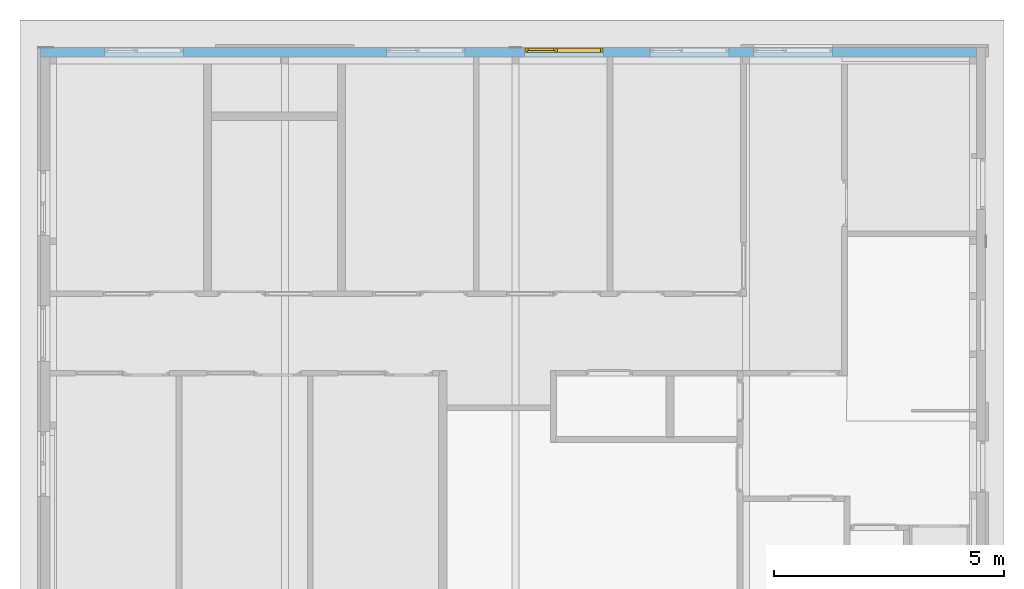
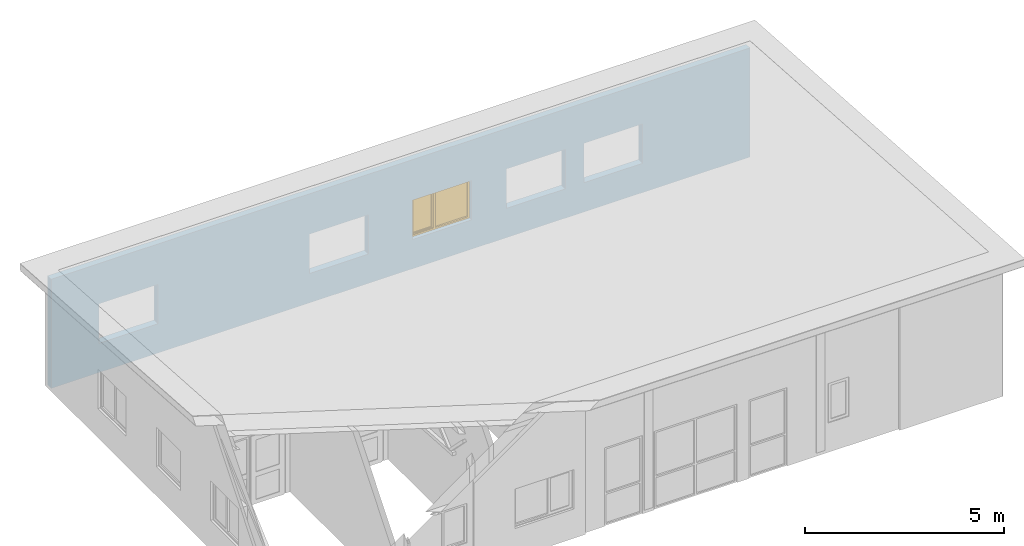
# One storey, part 28 of 37: 1 window, 5 openings, plus 1 element that does not belong to this part.
"""IFC2X3 building model written with IfcOpenShell, lengths in millimetres."""

import ifcopenshell
import ifcopenshell.guid

model = None  # the IFC model being written
_history = None  # IfcOwnerHistory: only IFC2X3 demands one
_inside = {}  # id of a spatial element -> (the spatial element, [elements in it])
_under = {}  # id of a project, library or spatial element -> (it, [spatial elements below it])
_declared = {}  # id of a project -> (the project, [libraries it declares])
_typed = {}  # id of a type object -> (the type object, [elements of that type])
_made_of = {}  # id of a material, layer set ... -> (it, [elements and type objects made of it])


def new_model(schema):
    """Start an empty IFC model of exactly this schema.

    Asked for "IFC4X3", IfcOpenShell would pick the latest addendum, in which some entities
    have other attributes; the version numbers below select the first issue.
    IFC2X3 requires an IfcOwnerHistory on every rooted entity: one is made here for all.
    """
    global model, _history
    if schema == "IFC4X3":
        model = ifcopenshell.file(schema_version=(4, 3, 0, 0))
    else:
        model = ifcopenshell.file(schema=schema)
    _inside.clear()
    _under.clear()
    _declared.clear()
    _typed.clear()
    _made_of.clear()
    _history = None
    if model.schema == "IFC2X3":
        org = make("IfcOrganization", Name="unknown")
        user = make(
            "IfcPersonAndOrganization",
            ThePerson=make("IfcPerson", FamilyName="unknown"),
            TheOrganization=org,
        )
        app = make(
            "IfcApplication",
            ApplicationDeveloper=org,
            Version="unknown",
            ApplicationFullName="unknown",
            ApplicationIdentifier="unknown",
        )
        _history = make(
            "IfcOwnerHistory",
            OwningUser=user,
            OwningApplication=app,
            ChangeAction="ADDED",
            CreationDate=0,
        )
    return model


def make(cls, **values):
    """One entity of the class cls with the attributes given. An attribute that is None is left unset."""
    return model.create_entity(
        cls, **{name: value for name, value in values.items() if value is not None}
    )


def entity(cls, *values):
    """Any entity or typed value of the class cls, its attributes in the order of the schema. None: left unset."""
    e = model.create_entity(cls)
    for i, value in enumerate(values):
        if value is not None:
            e[i] = value
    return e


def rooted(cls, **values):
    """An entity with a GlobalId (a new one), such as an element, a storey or a relation."""
    return make(cls, GlobalId=ifcopenshell.guid.new(), OwnerHistory=_history, **values)


def si_unit(unit_type, name, prefix=None):
    """IfcSIUnit, for example si_unit("LENGTHUNIT", "METRE", prefix="MILLI")."""
    return make("IfcSIUnit", UnitType=unit_type, Prefix=prefix, Name=name)


def converted_unit(unit_type, name, factor, base, dimensions=None, offset=None):
    """IfcConversionBasedUnit, such as the inch: factor (a typed value) times the base unit."""
    return make(
        "IfcConversionBasedUnit"
        if offset is None
        else "IfcConversionBasedUnitWithOffset",
        ConversionOffset=offset,
        Dimensions=None
        if dimensions is None
        else entity("IfcDimensionalExponents", *dimensions),
        UnitType=unit_type,
        Name=name,
        ConversionFactor=make(
            "IfcMeasureWithUnit", ValueComponent=factor, UnitComponent=base
        ),
    )


def assignment(units):
    """IfcUnitAssignment: the units of a project."""
    return None if units is None else make("IfcUnitAssignment", Units=units)


def point(xyz):
    """IfcCartesianPoint."""
    return None if xyz is None else make("IfcCartesianPoint", Coordinates=xyz)


def direction(xyz):
    """IfcDirection."""
    return None if xyz is None else make("IfcDirection", DirectionRatios=xyz)


def frame(location, z_axis=None, x_axis=None):
    """IfcAxis2Placement3D, a coordinate frame: its origin and axes. An axis left out is left unset."""
    return make(
        "IfcAxis2Placement3D",
        Location=point(location),
        Axis=direction(z_axis),
        RefDirection=direction(x_axis),
    )


def frame_2d(location, x_axis=None):
    """IfcAxis2Placement2D, a coordinate frame in the plane: its origin and x axis."""
    return make(
        "IfcAxis2Placement2D", Location=point(location), RefDirection=direction(x_axis)
    )


def origin():
    """The frame at (0, 0, 0) with its axes left unset."""
    return frame((0.0, 0.0, 0.0))


def origin_with_axes():
    """The frame at (0, 0, 0) with the z axis (0, 0, 1) and the x axis (1, 0, 0) written out."""
    return frame((0.0, 0.0, 0.0), z_axis=(0.0, 0.0, 1.0), x_axis=(1.0, 0.0, 0.0))


def place(relative_to, where):
    """IfcLocalPlacement: puts the frame where relative to a parent placement (None: the world)."""
    return make(
        "IfcLocalPlacement", PlacementRelTo=relative_to, RelativePlacement=where
    )


def context(
    kind, dimensions, precision=None, world=None, true_north=None, identifier=None
):
    """IfcGeometricRepresentationContext, for example the 3D "Model" context."""
    return make(
        "IfcGeometricRepresentationContext",
        ContextIdentifier=identifier,
        ContextType=kind,
        CoordinateSpaceDimension=dimensions,
        Precision=precision,
        WorldCoordinateSystem=world,
        TrueNorth=true_north,
    )


def subcontext(parent, identifier, kind, view, scale=None):
    """IfcGeometricRepresentationSubContext, for example "Body" below "Model"."""
    return make(
        "IfcGeometricRepresentationSubContext",
        ContextIdentifier=identifier,
        ContextType=kind,
        ParentContext=parent,
        TargetScale=scale,
        TargetView=view,
    )


def project(units=None, contexts=None):
    """IfcProject with its units and contexts."""
    return rooted(
        "IfcProject",
        Name="project",
        RepresentationContexts=contexts,
        UnitsInContext=assignment(units),
    )


def spatial(cls, under=None, at=None, **own):
    """A site, building, storey or space (cls), placed at a placement, below another one or the project."""
    s = rooted(cls, ObjectPlacement=at, **own)
    if under is not None:
        _under.setdefault(under.id(), (under, []))[1].append(s)
    return s


def profile(cls, at=None, kind="AREA", **sizes):
    """A parametric profile (cls). Its sizes go by their IFC names, for example OverallWidth=200.0."""
    return make(cls, ProfileType=kind, Position=at, **sizes)


def rectangle(**sizes):
    """IfcRectangleProfileDef."""
    return profile("IfcRectangleProfileDef", **sizes)


def extrude(swept, where, along, depth):
    """IfcExtrudedAreaSolid: the profile swept, set in the frame where, extruded along a direction by depth."""
    return make(
        "IfcExtrudedAreaSolid",
        SweptArea=swept,
        Position=where,
        ExtrudedDirection=direction(along),
        Depth=depth,
    )


def clip(a, b, op="DIFFERENCE"):
    """IfcBooleanClippingResult: the solid a cut by the half space b."""
    return make(
        "IfcBooleanClippingResult", Operator=op, FirstOperand=a, SecondOperand=b
    )


def halfspace(plane, agree):
    """IfcHalfSpaceSolid: all space on one side of the plane z = 0 of the frame plane."""
    return make(
        "IfcHalfSpaceSolid",
        BaseSurface=make("IfcPlane", Position=plane),
        AgreementFlag=agree,
    )


def faces_of(points, faces, orient=None, outer=None):
    """IfcFace entities. A face is a list of loops; a loop is a list of indices into points, from 0.

    orient and outer hold one flag for each loop. By default every Orientation is true, the
    first loop of a face is its IfcFaceOuterBound and the others are IfcFaceBound.
    """
    made = []
    for i, loops in enumerate(faces):
        bounds = []
        for j, loop in enumerate(loops):
            is_outer = j == 0 if outer is None else outer[i][j]
            bounds.append(
                make(
                    "IfcFaceOuterBound" if is_outer else "IfcFaceBound",
                    Bound=make("IfcPolyLoop", Polygon=[points[k] for k in loop]),
                    Orientation=True if orient is None else orient[i][j],
                )
            )
        made.append(make("IfcFace", Bounds=bounds))
    return made


def faceted_brep(points, faces, orient=None, outer=None, voids=None):
    """IfcFacetedBrep: a solid bounded by flat faces; with voids (closed shells), ...WithVoids."""
    shared = [point(p) for p in points]
    hull = make("IfcClosedShell", CfsFaces=faces_of(shared, faces, orient, outer))
    if voids is None:
        return make("IfcFacetedBrep", Outer=hull)
    return make(
        "IfcFacetedBrepWithVoids",
        Outer=hull,
        Voids=[
            make(cls, CfsFaces=faces_of(shared, fs, o, b)) for cls, fs, o, b in voids
        ],
    )


def shape(context_of_items, identifier, shape_type, items):
    """IfcShapeRepresentation: the items that make up one representation, for example the "Body"."""
    return make(
        "IfcShapeRepresentation",
        ContextOfItems=context_of_items,
        RepresentationIdentifier=identifier,
        RepresentationType=shape_type,
        Items=items,
    )


def material(Name=None, Category=None):
    """IfcMaterial."""
    return make("IfcMaterial", Name=Name, Category=Category)


def layer(
    of_material, thickness, ventilated=None, Name=None, Category=None, Priority=None
):
    """IfcMaterialLayer: one layer of a wall or slab, of a material (None: an air gap)."""
    return make(
        "IfcMaterialLayer",
        Material=of_material,
        LayerThickness=thickness,
        IsVentilated=ventilated,
        Name=Name,
        Category=Category,
        Priority=Priority,
    )


def layer_set(layers, Name=None):
    """IfcMaterialLayerSet."""
    return make("IfcMaterialLayerSet", MaterialLayers=layers, LayerSetName=Name)


def layer_usage(for_layer_set, set_direction, sense, offset, extent=None):
    """IfcMaterialLayerSetUsage: how a layer set lies in its element."""
    return make(
        "IfcMaterialLayerSetUsage",
        ForLayerSet=for_layer_set,
        LayerSetDirection=set_direction,
        DirectionSense=sense,
        OffsetFromReferenceLine=offset,
        ReferenceExtent=extent,
    )


def made_of(thing, what):
    """Note that an element or type object is made of a material, layer set ...; save() writes the relation."""
    if what is not None:
        _made_of.setdefault(what.id(), (what, []))[1].append(thing)
    return thing


def type_object(cls, material=None, **own):
    """A type object (cls), such as IfcWallType, which elements share."""
    return made_of(rooted(cls, **own), material)


def element(
    cls,
    number,
    at=None,
    inside=None,
    cuts=None,
    type_object=None,
    material=None,
    context=None,
    identifier="Body",
    shape_type=None,
    held_by="IfcProductDefinitionShape",
    body=None,
    shapes=None,
    **own,
):
    """One element of the class cls, such as IfcWall. Its Tag is "e" and its number.

    at: its placement. inside: the storey or other place that contains it. cuts: it is an
    opening in that element (IfcRelVoidsElement). A single representation is given by context,
    identifier, shape_type and body (its items); several are given by shapes. held_by: the class
    of the entity that holds the representations. save() writes the other relations.
    """
    e = rooted(cls, Tag="e%d" % number, ObjectPlacement=at, **own)
    if body is not None:
        shapes = [shape(context, identifier, shape_type, body)]
    if shapes is not None:
        e.Representation = make(held_by, Representations=shapes)
    if inside is not None:
        _inside.setdefault(inside.id(), (inside, []))[1].append(e)
    if cuts is not None:
        rooted(
            "IfcRelVoidsElement", RelatingBuildingElement=cuts, RelatedOpeningElement=e
        )
    if type_object is not None:
        _typed.setdefault(type_object.id(), (type_object, []))[1].append(e)
    return made_of(e, material)


def fill(opening, filler):
    """IfcRelFillsElement: the door or window that sits in an opening."""
    return rooted(
        "IfcRelFillsElement",
        RelatingOpeningElement=opening,
        RelatedBuildingElement=filler,
    )


def aggregate(whole, parts):
    """IfcRelAggregates: a whole, such as a stair, and the parts it consists of."""
    return rooted("IfcRelAggregates", RelatingObject=whole, RelatedObjects=parts)


def save(model, path):
    """Write the relations noted so far, then the file.

    IfcRelAggregates (storeys below a building ...), IfcRelContainedInSpatialStructure (elements
    in a storey), IfcRelDefinesByType, IfcRelAssociatesMaterial and IfcRelDeclares: one each for
    every whole, place, type object, material and project.
    """
    for whole, parts in _under.values():
        aggregate(whole, parts)
    for where, things in _inside.values():
        rooted(
            "IfcRelContainedInSpatialStructure",
            RelatedElements=things,
            RelatingStructure=where,
        )
    for kind, things in _typed.values():
        rooted("IfcRelDefinesByType", RelatedObjects=things, RelatingType=kind)
    for what, things in _made_of.values():
        rooted("IfcRelAssociatesMaterial", RelatedObjects=things, RelatingMaterial=what)
    for by, libraries in _declared.values():
        rooted("IfcRelDeclares", RelatingContext=by, RelatedDefinitions=libraries)
    model.write(path)


model = new_model("IFC2X3")

# Units and contexts
model_context = context("Model", 3, precision=1e-05, world=origin())
plan_context = context("Plan", 3, precision=1e-05, world=origin())
body_context = subcontext(model_context, "Body", "Model", "MODEL_VIEW")
ifc_project = project(units=[si_unit("LENGTHUNIT", "METRE", prefix="MILLI"), converted_unit("PLANEANGLEUNIT", "DEGREE", entity("IfcPlaneAngleMeasure", 0.0174532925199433), si_unit("PLANEANGLEUNIT", "RADIAN"), dimensions=[0, 0, 0, 0, 0, 0, 0]), si_unit("AREAUNIT", "SQUARE_METRE"), si_unit("VOLUMEUNIT", "CUBIC_METRE")], contexts=[model_context, plan_context])

# Building, storey
building_placement = place(None, origin())
building = spatial("IfcBuilding", under=ifc_project, at=building_placement, Name="HEKF Administrasjonbygg", CompositionType="ELEMENT")
storey_placement = place(building_placement, frame((0.0, 0.0, 9900.0), z_axis=(0.0, 0.0, 1.0), x_axis=(1.0, 0.0, 0.0)))
storey = spatial("IfcBuildingStorey", under=building, at=storey_placement, Name="Plan 2", CompositionType="ELEMENT", Elevation=9900.0)

# Wall, openings, window
ifc_material_1 = material(Name="Paroc 200")
ifc_layer = layer(ifc_material_1, 200.0)
ifc_layer_set = layer_set([ifc_layer])
ifc_layer_usage = layer_usage(ifc_layer_set, "AXIS2", "POSITIVE", 0.0)
wall_placement = place(storey_placement, frame((9699.999999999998, 0.0, 0.0), z_axis=(0.0, 0.0, 1.0), x_axis=(1.0, 0.0, 0.0)))
wall = element("IfcWallStandardCase", 1, at=wall_placement, inside=storey, material=ifc_layer_usage, context=body_context, shape_type="Clipping", body=[
    clip(extrude(rectangle(XDim=20300.0, YDim=200.0, at=frame_2d((10150.0, 100.0), x_axis=(1.0, 0.0))), origin_with_axes(), (0.0, 0.0, 1.0), 3349.999999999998), halfspace(frame((0.0, 0.0, 3349.999999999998), z_axis=(0.0, -0.06651901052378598, -0.9977851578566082), x_axis=(1.0, 0.0, 0.0)), True)),
])
opening_1_placement = place(wall_placement, frame((15470.0, 0.0, 900.0), z_axis=(0.0, 1.0, 0.0), x_axis=(0.0, 0.0, 1.0)))
element("IfcOpeningElement", 2, at=opening_1_placement, cuts=wall, Name="Window opening", ObjectType="Opening", context=body_context, shape_type="SweptSolid", body=[
    extrude(rectangle(XDim=1210.0, YDim=1710.0, at=frame_2d((605.0, 855.0), x_axis=(1.0, 0.0))), origin_with_axes(), (0.0, 0.0, 1.0), 200.0),
])
opening_2_placement = place(wall_placement, frame((7500.000000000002, 0.0, 900.0), z_axis=(0.0, 1.0, 0.0), x_axis=(0.0, 0.0, 1.0)))
element("IfcOpeningElement", 3, at=opening_2_placement, cuts=wall, Name="Window opening", ObjectType="Opening", context=body_context, shape_type="SweptSolid", body=[
    extrude(rectangle(XDim=1210.0, YDim=1710.0, at=frame_2d((605.0, 855.0), x_axis=(1.0, 0.0))), origin_with_axes(), (0.0, 0.0, 1.0), 200.0),
])
opening_3_placement = place(wall_placement, frame((13220.0, 0.0, 900.0), z_axis=(0.0, 1.0, 0.0), x_axis=(0.0, 0.0, 1.0)))
element("IfcOpeningElement", 4, at=opening_3_placement, cuts=wall, Name="Window opening", ObjectType="Opening", context=body_context, shape_type="SweptSolid", body=[
    extrude(rectangle(XDim=1210.0, YDim=1710.0, at=frame_2d((605.0, 855.0), x_axis=(1.0, 0.0))), origin_with_axes(), (0.0, 0.0, 1.0), 200.0),
])
opening_4_placement = place(wall_placement, frame((10500.0, 0.0, 900.0), z_axis=(0.0, 1.0, 0.0), x_axis=(0.0, 0.0, 1.0)))
opening_4 = element("IfcOpeningElement", 5, at=opening_4_placement, cuts=wall, Name="Window opening", ObjectType="Opening", context=body_context, shape_type="SweptSolid", body=[
    extrude(rectangle(XDim=1210.0, YDim=1710.0, at=frame_2d((605.0, 855.0), x_axis=(1.0, 0.0))), origin_with_axes(), (0.0, 0.0, 1.0), 200.0),
])
opening_5_placement = place(wall_placement, frame((1390.000000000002, 0.0, 900.0), z_axis=(0.0, 1.0, 0.0), x_axis=(0.0, 0.0, 1.0)))
element("IfcOpeningElement", 6, at=opening_5_placement, cuts=wall, Name="Window opening", ObjectType="Opening", context=body_context, shape_type="SweptSolid", body=[
    extrude(rectangle(XDim=1210.0, YDim=1710.0, at=frame_2d((605.0, 855.0), x_axis=(1.0, 0.0))), origin_with_axes(), (0.0, 0.0, 1.0), 200.0),
])
ifc_material_2 = material()
window_style = type_object("IfcWindowStyle", Name="V212", ConstructionType="NOTDEFINED", OperationType="USERDEFINED", ParameterTakesPrecedence=False, Sizeable=False)
window_placement = place(opening_4_placement, frame((0.0, 0.0, 0.0), z_axis=(1.0, 0.0, 0.0), x_axis=(0.0, 1.0, 0.0)))
window = element("IfcWindow", 7, at=window_placement, inside=storey, type_object=window_style, material=ifc_material_2, Name="V212", OverallHeight=1210.0, OverallWidth=1710.0, context=body_context, shape_type="Brep", body=[
    faceted_brep([(1700.0, 93.99999999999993, 1200.0), (1700.0, 94.0, 9.999999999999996), (1650.0, 94.00000000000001, 9.999999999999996), (1650.0, 93.99999999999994, 1200.0), (1700.0, 186.0, 10.0), (1700.0, 185.9999999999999, 1200.0), (1650.0, 185.9999999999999, 1200.0), (1650.0, 186.0, 10.0), (1700.0, 94.0, 9.999999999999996), (1700.0, 93.99999999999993, 1200.0), (1700.0, 185.9999999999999, 1200.0), (1700.0, 186.0, 10.0), (1650.0, 94.00000000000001, 9.999999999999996), (1700.0, 94.0, 9.999999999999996), (1700.0, 186.0, 10.0), (1650.0, 186.0, 10.0), (1650.0, 93.99999999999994, 1200.0), (1650.0, 94.00000000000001, 9.999999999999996), (1650.0, 186.0, 10.0), (1650.0, 185.9999999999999, 1200.0), (1700.0, 93.99999999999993, 1200.0), (1650.0, 93.99999999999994, 1200.0), (1650.0, 185.9999999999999, 1200.0), (1700.0, 185.9999999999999, 1200.0)], [[[0, 1, 2, 3]], [[4, 5, 6, 7]], [[8, 9, 10, 11]], [[12, 13, 14, 15]], [[16, 17, 18, 19]], [[20, 21, 22, 23]]], orient=[[False], [False], [False], [False], [False], [False]]),
    faceted_brep([(60.0, 94.00000000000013, 1200.0), (60.0, 94.0000000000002, 9.999999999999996), (10.0, 94.00000000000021, 9.999999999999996), (10.0, 94.00000000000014, 1200.0), (60.0, 186.0000000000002, 10.0), (60.0, 186.0000000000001, 1200.0), (10.0, 186.0000000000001, 1200.0), (10.0, 186.0000000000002, 10.0), (60.0, 94.0000000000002, 9.999999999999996), (60.0, 94.00000000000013, 1200.0), (60.0, 186.0000000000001, 1200.0), (60.0, 186.0000000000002, 10.0), (10.0, 94.00000000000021, 9.999999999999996), (60.0, 94.0000000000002, 9.999999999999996), (60.0, 186.0000000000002, 10.0), (10.0, 186.0000000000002, 10.0), (10.0, 94.00000000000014, 1200.0), (10.0, 94.00000000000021, 9.999999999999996), (10.0, 186.0000000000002, 10.0), (10.0, 186.0000000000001, 1200.0), (60.0, 94.00000000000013, 1200.0), (10.0, 94.00000000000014, 1200.0), (10.0, 186.0000000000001, 1200.0), (60.0, 186.0000000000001, 1200.0)], [[[0, 1, 2, 3]], [[4, 5, 6, 7]], [[8, 9, 10, 11]], [[12, 13, 14, 15]], [[16, 17, 18, 19]], [[20, 21, 22, 23]]], orient=[[False], [False], [False], [False], [False], [False]]),
    faceted_brep([(1650.0, 94.00000000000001, 60.0), (1650.0, 94.00000000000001, 9.999999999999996), (60.00000000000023, 94.0000000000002, 9.999999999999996), (60.00000000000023, 94.0000000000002, 60.0), (1650.0, 186.0, 10.0), (1650.0, 186.0, 60.0), (60.00000000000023, 186.0000000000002, 60.0), (60.00000000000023, 186.0000000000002, 10.0), (1650.0, 94.00000000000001, 9.999999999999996), (1650.0, 94.00000000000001, 60.0), (1650.0, 186.0, 60.0), (1650.0, 186.0, 10.0), (60.00000000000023, 94.0000000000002, 9.999999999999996), (1650.0, 94.00000000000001, 9.999999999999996), (1650.0, 186.0, 10.0), (60.00000000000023, 186.0000000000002, 10.0), (60.00000000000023, 94.0000000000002, 60.0), (60.00000000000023, 94.0000000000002, 9.999999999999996), (60.00000000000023, 186.0000000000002, 10.0), (60.00000000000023, 186.0000000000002, 60.0), (1650.0, 94.00000000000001, 60.0), (60.00000000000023, 94.0000000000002, 60.0), (60.00000000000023, 186.0000000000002, 60.0), (1650.0, 186.0, 60.0)], [[[0, 1, 2, 3]], [[4, 5, 6, 7]], [[8, 9, 10, 11]], [[12, 13, 14, 15]], [[16, 17, 18, 19]], [[20, 21, 22, 23]]], orient=[[False], [False], [False], [False], [False], [False]]),
    faceted_brep([(1650.0, 93.99999999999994, 1200.0), (1650.0, 93.99999999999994, 1150.0), (60.00000000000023, 94.00000000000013, 1150.0), (60.00000000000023, 94.00000000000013, 1200.0), (1650.0, 185.9999999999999, 1150.0), (1650.0, 185.9999999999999, 1200.0), (60.00000000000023, 186.0000000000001, 1200.0), (60.00000000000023, 186.0000000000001, 1150.0), (1650.0, 93.99999999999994, 1150.0), (1650.0, 93.99999999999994, 1200.0), (1650.0, 185.9999999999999, 1200.0), (1650.0, 185.9999999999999, 1150.0), (60.00000000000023, 94.00000000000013, 1150.0), (1650.0, 93.99999999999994, 1150.0), (1650.0, 185.9999999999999, 1150.0), (60.00000000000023, 186.0000000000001, 1150.0), (60.00000000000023, 94.00000000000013, 1200.0), (60.00000000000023, 94.00000000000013, 1150.0), (60.00000000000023, 186.0000000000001, 1150.0), (60.00000000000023, 186.0000000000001, 1200.0), (1650.0, 93.99999999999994, 1200.0), (60.00000000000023, 94.00000000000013, 1200.0), (60.00000000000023, 186.0000000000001, 1200.0), (1650.0, 185.9999999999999, 1200.0)], [[[0, 1, 2, 3]], [[4, 5, 6, 7]], [[8, 9, 10, 11]], [[12, 13, 14, 15]], [[16, 17, 18, 19]], [[20, 21, 22, 23]]], orient=[[False], [False], [False], [False], [False], [False]]),
    faceted_brep([(710.0000000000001, 94.00000000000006, 1150.0), (710.0000000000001, 94.00000000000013, 60.00000000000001), (660.0, 94.00000000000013, 60.00000000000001), (660.0, 94.00000000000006, 1150.0), (710.0000000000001, 186.0000000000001, 60.00000000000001), (710.0000000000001, 186.0000000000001, 1150.0), (660.0, 186.0000000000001, 1150.0), (660.0, 186.0000000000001, 60.00000000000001), (710.0000000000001, 94.00000000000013, 60.00000000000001), (710.0000000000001, 94.00000000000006, 1150.0), (710.0000000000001, 186.0000000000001, 1150.0), (710.0000000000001, 186.0000000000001, 60.00000000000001), (660.0, 94.00000000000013, 60.00000000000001), (710.0000000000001, 94.00000000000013, 60.00000000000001), (710.0000000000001, 186.0000000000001, 60.00000000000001), (660.0, 186.0000000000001, 60.00000000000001), (660.0, 94.00000000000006, 1150.0), (660.0, 94.00000000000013, 60.00000000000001), (660.0, 186.0000000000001, 60.00000000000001), (660.0, 186.0000000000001, 1150.0), (710.0000000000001, 94.00000000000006, 1150.0), (660.0, 94.00000000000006, 1150.0), (660.0, 186.0000000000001, 1150.0), (710.0000000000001, 186.0000000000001, 1150.0)], [[[0, 1, 2, 3]], [[4, 5, 6, 7]], [[8, 9, 10, 11]], [[12, 13, 14, 15]], [[16, 17, 18, 19]], [[20, 21, 22, 23]]], orient=[[False], [False], [False], [False], [False], [False]]),
    faceted_brep([(1650.0, 140.0, 60.00000000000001), (710.0000000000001, 140.0000000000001, 60.00000000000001), (710.0000000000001, 140.0000000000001, 1150.0), (1650.0, 139.9999999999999, 1150.0), (1650.0, 141.0, 60.00000000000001), (1650.0, 140.9999999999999, 1150.0), (710.0000000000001, 141.0000000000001, 1150.0), (710.0000000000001, 141.0000000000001, 60.00000000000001), (1650.0, 140.0, 60.00000000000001), (1650.0, 141.0, 60.00000000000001), (710.0000000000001, 141.0000000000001, 60.00000000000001), (710.0000000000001, 140.0000000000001, 60.00000000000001), (710.0000000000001, 140.0000000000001, 60.00000000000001), (710.0000000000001, 141.0000000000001, 60.00000000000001), (710.0000000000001, 141.0000000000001, 1150.0), (710.0000000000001, 140.0000000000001, 1150.0), (710.0000000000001, 140.0000000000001, 1150.0), (710.0000000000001, 141.0000000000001, 1150.0), (1650.0, 140.9999999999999, 1150.0), (1650.0, 139.9999999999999, 1150.0), (1650.0, 139.9999999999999, 1150.0), (1650.0, 140.9999999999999, 1150.0), (1650.0, 141.0, 60.00000000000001), (1650.0, 140.0, 60.00000000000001)], [[[0, 1, 2, 3]], [[4, 5, 6, 7]], [[8, 9, 10, 11]], [[12, 13, 14, 15]], [[16, 17, 18, 19]], [[20, 21, 22, 23]]], orient=[[False], [False], [False], [False], [False], [False]]),
    faceted_brep([(680.0000000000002, 136.0000000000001, 1170.0), (680.0000000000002, 136.0000000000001, 40.0), (630.0000000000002, 136.0000000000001, 40.0), (630.0000000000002, 136.0000000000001, 1170.0), (680.0000000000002, 186.0000000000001, 40.0), (680.0000000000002, 186.0000000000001, 1170.0), (630.0000000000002, 186.0000000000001, 1170.0), (630.0000000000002, 186.0000000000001, 40.0), (680.0000000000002, 136.0000000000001, 40.0), (680.0000000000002, 136.0000000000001, 1170.0), (680.0000000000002, 186.0000000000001, 1170.0), (680.0000000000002, 186.0000000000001, 40.0), (630.0000000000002, 136.0000000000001, 40.0), (680.0000000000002, 136.0000000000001, 40.0), (680.0000000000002, 186.0000000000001, 40.0), (630.0000000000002, 186.0000000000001, 40.0), (630.0000000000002, 136.0000000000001, 1170.0), (630.0000000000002, 136.0000000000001, 40.0), (630.0000000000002, 186.0000000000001, 40.0), (630.0000000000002, 186.0000000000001, 1170.0), (680.0000000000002, 136.0000000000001, 1170.0), (630.0000000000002, 136.0000000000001, 1170.0), (630.0000000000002, 186.0000000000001, 1170.0), (680.0000000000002, 186.0000000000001, 1170.0)], [[[0, 1, 2, 3]], [[4, 5, 6, 7]], [[8, 9, 10, 11]], [[12, 13, 14, 15]], [[16, 17, 18, 19]], [[20, 21, 22, 23]]], orient=[[False], [False], [False], [False], [False], [False]]),
    faceted_brep([(90.00000000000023, 136.0000000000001, 1170.0), (90.00000000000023, 136.0000000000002, 40.0), (40.00000000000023, 136.0000000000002, 40.0), (40.00000000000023, 136.0000000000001, 1170.0), (90.00000000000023, 186.0000000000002, 40.0), (90.00000000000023, 186.0000000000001, 1170.0), (40.00000000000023, 186.0000000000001, 1170.0), (40.00000000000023, 186.0000000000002, 40.0), (90.00000000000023, 136.0000000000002, 40.0), (90.00000000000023, 136.0000000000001, 1170.0), (90.00000000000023, 186.0000000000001, 1170.0), (90.00000000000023, 186.0000000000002, 40.0), (40.00000000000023, 136.0000000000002, 40.0), (90.00000000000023, 136.0000000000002, 40.0), (90.00000000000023, 186.0000000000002, 40.0), (40.00000000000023, 186.0000000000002, 40.0), (40.00000000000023, 136.0000000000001, 1170.0), (40.00000000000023, 136.0000000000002, 40.0), (40.00000000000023, 186.0000000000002, 40.0), (40.00000000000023, 186.0000000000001, 1170.0), (90.00000000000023, 136.0000000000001, 1170.0), (40.00000000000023, 136.0000000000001, 1170.0), (40.00000000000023, 186.0000000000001, 1170.0), (90.00000000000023, 186.0000000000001, 1170.0)], [[[0, 1, 2, 3]], [[4, 5, 6, 7]], [[8, 9, 10, 11]], [[12, 13, 14, 15]], [[16, 17, 18, 19]], [[20, 21, 22, 23]]], orient=[[False], [False], [False], [False], [False], [False]]),
    faceted_brep([(630.0000000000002, 136.0000000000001, 90.0), (630.0000000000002, 136.0000000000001, 40.0), (90.00000000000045, 136.0000000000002, 40.0), (90.00000000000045, 136.0000000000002, 90.0), (630.0000000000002, 186.0000000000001, 40.0), (630.0000000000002, 186.0000000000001, 90.0), (90.00000000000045, 186.0000000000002, 90.0), (90.00000000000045, 186.0000000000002, 40.0), (630.0000000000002, 136.0000000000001, 40.0), (630.0000000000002, 136.0000000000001, 90.0), (630.0000000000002, 186.0000000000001, 90.0), (630.0000000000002, 186.0000000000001, 40.0), (90.00000000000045, 136.0000000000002, 40.0), (630.0000000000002, 136.0000000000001, 40.0), (630.0000000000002, 186.0000000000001, 40.0), (90.00000000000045, 186.0000000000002, 40.0), (90.00000000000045, 136.0000000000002, 90.0), (90.00000000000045, 136.0000000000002, 40.0), (90.00000000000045, 186.0000000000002, 40.0), (90.00000000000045, 186.0000000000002, 90.0), (630.0000000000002, 136.0000000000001, 90.0), (90.00000000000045, 136.0000000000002, 90.0), (90.00000000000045, 186.0000000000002, 90.0), (630.0000000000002, 186.0000000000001, 90.0)], [[[0, 1, 2, 3]], [[4, 5, 6, 7]], [[8, 9, 10, 11]], [[12, 13, 14, 15]], [[16, 17, 18, 19]], [[20, 21, 22, 23]]], orient=[[False], [False], [False], [False], [False], [False]]),
    faceted_brep([(630.0000000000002, 136.0000000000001, 1170.0), (630.0000000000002, 136.0000000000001, 1120.0), (90.00000000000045, 136.0000000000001, 1120.0), (90.00000000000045, 136.0000000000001, 1170.0), (630.0000000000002, 186.0000000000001, 1120.0), (630.0000000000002, 186.0000000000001, 1170.0), (90.00000000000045, 186.0000000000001, 1170.0), (90.00000000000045, 186.0000000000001, 1120.0), (630.0000000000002, 136.0000000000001, 1120.0), (630.0000000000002, 136.0000000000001, 1170.0), (630.0000000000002, 186.0000000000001, 1170.0), (630.0000000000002, 186.0000000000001, 1120.0), (90.00000000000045, 136.0000000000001, 1120.0), (630.0000000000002, 136.0000000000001, 1120.0), (630.0000000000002, 186.0000000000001, 1120.0), (90.00000000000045, 186.0000000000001, 1120.0), (90.00000000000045, 136.0000000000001, 1170.0), (90.00000000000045, 136.0000000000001, 1120.0), (90.00000000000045, 186.0000000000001, 1120.0), (90.00000000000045, 186.0000000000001, 1170.0), (630.0000000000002, 136.0000000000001, 1170.0), (90.00000000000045, 136.0000000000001, 1170.0), (90.00000000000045, 186.0000000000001, 1170.0), (630.0000000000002, 186.0000000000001, 1170.0)], [[[0, 1, 2, 3]], [[4, 5, 6, 7]], [[8, 9, 10, 11]], [[12, 13, 14, 15]], [[16, 17, 18, 19]], [[20, 21, 22, 23]]], orient=[[False], [False], [False], [False], [False], [False]]),
    faceted_brep([(630.0000000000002, 161.0000000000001, 90.00000000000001), (90.00000000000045, 161.0000000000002, 90.00000000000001), (90.00000000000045, 161.0000000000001, 1120.0), (630.0000000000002, 161.0000000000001, 1120.0), (630.0000000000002, 162.0000000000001, 90.00000000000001), (630.0000000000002, 162.0000000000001, 1120.0), (90.00000000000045, 162.0000000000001, 1120.0), (90.00000000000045, 162.0000000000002, 90.00000000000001), (630.0000000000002, 161.0000000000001, 90.00000000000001), (630.0000000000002, 162.0000000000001, 90.00000000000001), (90.00000000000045, 162.0000000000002, 90.00000000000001), (90.00000000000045, 161.0000000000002, 90.00000000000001), (90.00000000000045, 161.0000000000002, 90.00000000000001), (90.00000000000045, 162.0000000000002, 90.00000000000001), (90.00000000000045, 162.0000000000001, 1120.0), (90.00000000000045, 161.0000000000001, 1120.0), (90.00000000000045, 161.0000000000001, 1120.0), (90.00000000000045, 162.0000000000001, 1120.0), (630.0000000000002, 162.0000000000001, 1120.0), (630.0000000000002, 161.0000000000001, 1120.0), (630.0000000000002, 161.0000000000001, 1120.0), (630.0000000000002, 162.0000000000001, 1120.0), (630.0000000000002, 162.0000000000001, 90.00000000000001), (630.0000000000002, 161.0000000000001, 90.00000000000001)], [[[0, 1, 2, 3]], [[4, 5, 6, 7]], [[8, 9, 10, 11]], [[12, 13, 14, 15]], [[16, 17, 18, 19]], [[20, 21, 22, 23]]], orient=[[False], [False], [False], [False], [False], [False]]),
])
fill(opening_4, window)

save(model, "model.ifc")
